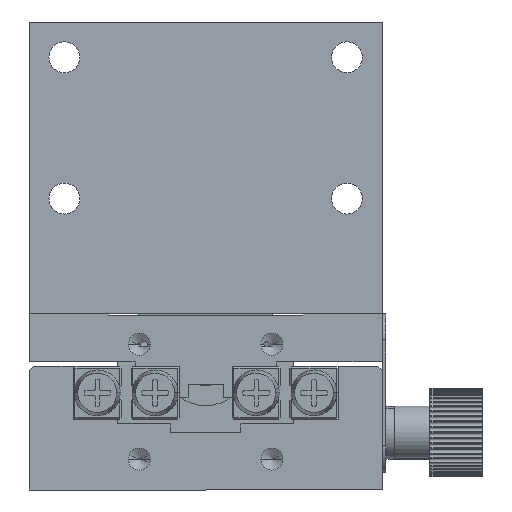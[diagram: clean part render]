
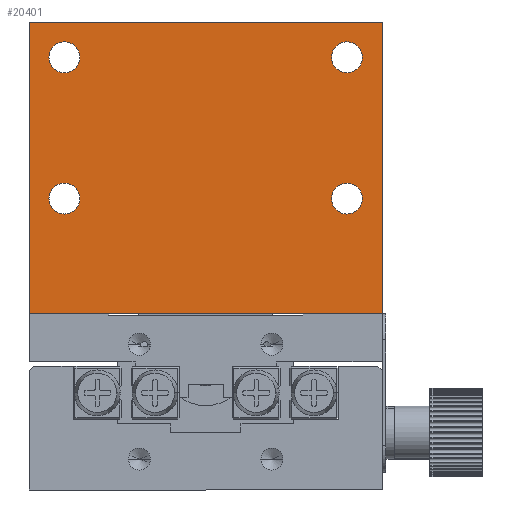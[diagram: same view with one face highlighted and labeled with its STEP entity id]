
A CAD part, front view. The second image highlights one B-rep face of the part: STEP entity #20401.
In plain terms, the highlighted planar face has unit normal (0, -1, 0).
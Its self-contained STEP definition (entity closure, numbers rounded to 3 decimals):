
#201 = DIRECTION ( 'NONE',  ( 0., 1., 0. ) ) ;
#205 = CARTESIAN_POINT ( 'NONE',  ( 16., 0., -20. ) ) ;
#422 = VERTEX_POINT ( 'NONE', #1737 ) ;
#662 = CARTESIAN_POINT ( 'NONE',  ( 16., 0., -18.25 ) ) ;
#756 = VERTEX_POINT ( 'NONE', #4445 ) ;
#881 = DIRECTION ( 'NONE',  ( 0., 0., 1. ) ) ;
#1233 = DIRECTION ( 'NONE',  ( 0., 0., 1. ) ) ;
#1285 = VECTOR ( 'NONE', #4797, 1000. ) ;
#1535 = DIRECTION ( 'NONE',  ( 0., 1., 0. ) ) ;
#1562 = LINE ( 'NONE', #11711, #1285 ) ;
#1737 = CARTESIAN_POINT ( 'NONE',  ( -16., 0., -21.75 ) ) ;
#1947 = ORIENTED_EDGE ( 'NONE', *, *, #22875, .T. ) ;
#2203 = PLANE ( 'NONE',  #13486 ) ;
#2224 = CIRCLE ( 'NONE', #17220, 1.75 ) ;
#2704 = CIRCLE ( 'NONE', #9941, 1.75 ) ;
#2834 = CIRCLE ( 'NONE', #5273, 1.75 ) ;
#2951 = ORIENTED_EDGE ( 'NONE', *, *, #15140, .T. ) ;
#3040 = LINE ( 'NONE', #18829, #9050 ) ;
#3092 = ORIENTED_EDGE ( 'NONE', *, *, #3523, .T. ) ;
#3205 = DIRECTION ( 'NONE',  ( 0., 0., 1. ) ) ;
#3523 = EDGE_CURVE ( 'NONE', #16316, #422, #5688, .T. ) ;
#3653 = FACE_BOUND ( 'NONE', #8945, .T. ) ;
#4075 = CARTESIAN_POINT ( 'NONE',  ( 20., 0., -33. ) ) ;
#4096 = VERTEX_POINT ( 'NONE', #6642 ) ;
#4117 = CIRCLE ( 'NONE', #19381, 1.75 ) ;
#4198 = AXIS2_PLACEMENT_3D ( 'NONE', #22584, #22806, #881 ) ;
#4445 = CARTESIAN_POINT ( 'NONE',  ( -20., 0., -33. ) ) ;
#4797 = DIRECTION ( 'NONE',  ( 0., 0., -1. ) ) ;
#4888 = CARTESIAN_POINT ( 'NONE',  ( 16., 0., -20. ) ) ;
#5062 = FACE_BOUND ( 'NONE', #9828, .T. ) ;
#5109 = DIRECTION ( 'NONE',  ( 0., 0., 1. ) ) ;
#5179 = DIRECTION ( 'NONE',  ( 0., 1., 0. ) ) ;
#5273 = AXIS2_PLACEMENT_3D ( 'NONE', #19863, #14120, #3205 ) ;
#5371 = AXIS2_PLACEMENT_3D ( 'NONE', #21583, #1535, #15943 ) ;
#5688 = CIRCLE ( 'NONE', #4198, 1.75 ) ;
#6558 = EDGE_CURVE ( 'NONE', #422, #16316, #8120, .T. ) ;
#6642 = CARTESIAN_POINT ( 'NONE',  ( 20., 0., -33. ) ) ;
#6796 = DIRECTION ( 'NONE',  ( 0., 1., 0. ) ) ;
#7051 = VECTOR ( 'NONE', #13236, 1000. ) ;
#7141 = DIRECTION ( 'NONE',  ( 0., 1., 0. ) ) ;
#8120 = CIRCLE ( 'NONE', #16920, 1.75 ) ;
#8375 = LINE ( 'NONE', #10034, #10925 ) ;
#8402 = EDGE_CURVE ( 'NONE', #20032, #4096, #1562, .T. ) ;
#8410 = CIRCLE ( 'NONE', #5371, 1.75 ) ;
#8804 = CARTESIAN_POINT ( 'NONE',  ( -16., 0., -4. ) ) ;
#8945 = EDGE_LOOP ( 'NONE', ( #3092, #12542 ) ) ;
#9006 = EDGE_CURVE ( 'NONE', #20032, #19515, #8375, .T. ) ;
#9050 = VECTOR ( 'NONE', #20432, 1000. ) ;
#9197 = DIRECTION ( 'NONE',  ( 0., 0., 1. ) ) ;
#9517 = CARTESIAN_POINT ( 'NONE',  ( 20., 0., 0. ) ) ;
#9828 = EDGE_LOOP ( 'NONE', ( #1947, #20096 ) ) ;
#9941 = AXIS2_PLACEMENT_3D ( 'NONE', #4888, #6796, #19615 ) ;
#10034 = CARTESIAN_POINT ( 'NONE',  ( 20., 0., 0. ) ) ;
#10123 = EDGE_CURVE ( 'NONE', #4096, #756, #19871, .T. ) ;
#10217 = AXIS2_PLACEMENT_3D ( 'NONE', #8804, #201, #9197 ) ;
#10428 = EDGE_LOOP ( 'NONE', ( #2951, #16069 ) ) ;
#10470 = FACE_BOUND ( 'NONE', #13378, .T. ) ;
#10869 = CARTESIAN_POINT ( 'NONE',  ( -16., 0., -5.75 ) ) ;
#10925 = VECTOR ( 'NONE', #22739, 1000. ) ;
#11173 = DIRECTION ( 'NONE',  ( 0., 1., 0. ) ) ;
#11610 = FACE_BOUND ( 'NONE', #10428, .T. ) ;
#11711 = CARTESIAN_POINT ( 'NONE',  ( 20., 0., 0. ) ) ;
#12418 = CARTESIAN_POINT ( 'NONE',  ( 16., 0., -4. ) ) ;
#12542 = ORIENTED_EDGE ( 'NONE', *, *, #6558, .T. ) ;
#12666 = ORIENTED_EDGE ( 'NONE', *, *, #8402, .F. ) ;
#12868 = CARTESIAN_POINT ( 'NONE',  ( -16., 0., -18.25 ) ) ;
#12994 = EDGE_CURVE ( 'NONE', #13774, #15268, #2834, .T. ) ;
#13236 = DIRECTION ( 'NONE',  ( -1., 0., 0. ) ) ;
#13378 = EDGE_LOOP ( 'NONE', ( #15194, #18826 ) ) ;
#13486 = AXIS2_PLACEMENT_3D ( 'NONE', #9517, #11173, #16445 ) ;
#13774 = VERTEX_POINT ( 'NONE', #14737 ) ;
#14120 = DIRECTION ( 'NONE',  ( 0., 1., 0. ) ) ;
#14376 = CARTESIAN_POINT ( 'NONE',  ( -16., 0., -20. ) ) ;
#14678 = ORIENTED_EDGE ( 'NONE', *, *, #10123, .F. ) ;
#14737 = CARTESIAN_POINT ( 'NONE',  ( 16., 0., -5.75 ) ) ;
#15051 = CARTESIAN_POINT ( 'NONE',  ( -16., 0., -2.25 ) ) ;
#15140 = EDGE_CURVE ( 'NONE', #21016, #22217, #2224, .T. ) ;
#15142 = VERTEX_POINT ( 'NONE', #10869 ) ;
#15194 = ORIENTED_EDGE ( 'NONE', *, *, #17038, .T. ) ;
#15247 = EDGE_CURVE ( 'NONE', #19515, #756, #3040, .T. ) ;
#15268 = VERTEX_POINT ( 'NONE', #18670 ) ;
#15943 = DIRECTION ( 'NONE',  ( 0., 0., 1. ) ) ;
#16069 = ORIENTED_EDGE ( 'NONE', *, *, #22495, .T. ) ;
#16213 = EDGE_CURVE ( 'NONE', #15142, #21590, #21514, .T. ) ;
#16316 = VERTEX_POINT ( 'NONE', #12868 ) ;
#16445 = DIRECTION ( 'NONE',  ( 0., 0., 1. ) ) ;
#16920 = AXIS2_PLACEMENT_3D ( 'NONE', #14376, #7141, #1233 ) ;
#17038 = EDGE_CURVE ( 'NONE', #15268, #13774, #4117, .T. ) ;
#17220 = AXIS2_PLACEMENT_3D ( 'NONE', #205, #23591, #18339 ) ;
#17592 = FACE_OUTER_BOUND ( 'NONE', #20928, .T. ) ;
#18339 = DIRECTION ( 'NONE',  ( 0., 0., 1. ) ) ;
#18670 = CARTESIAN_POINT ( 'NONE',  ( 16., 0., -2.25 ) ) ;
#18826 = ORIENTED_EDGE ( 'NONE', *, *, #12994, .T. ) ;
#18829 = CARTESIAN_POINT ( 'NONE',  ( -20., 0., 0. ) ) ;
#18969 = CARTESIAN_POINT ( 'NONE',  ( 20., 0., 0. ) ) ;
#19006 = CARTESIAN_POINT ( 'NONE',  ( -20., 0., 0. ) ) ;
#19381 = AXIS2_PLACEMENT_3D ( 'NONE', #12418, #5179, #5109 ) ;
#19515 = VERTEX_POINT ( 'NONE', #19006 ) ;
#19615 = DIRECTION ( 'NONE',  ( 0., 0., 1. ) ) ;
#19863 = CARTESIAN_POINT ( 'NONE',  ( 16., 0., -4. ) ) ;
#19871 = LINE ( 'NONE', #4075, #7051 ) ;
#20032 = VERTEX_POINT ( 'NONE', #18969 ) ;
#20067 = ORIENTED_EDGE ( 'NONE', *, *, #9006, .T. ) ;
#20096 = ORIENTED_EDGE ( 'NONE', *, *, #16213, .T. ) ;
#20354 = CARTESIAN_POINT ( 'NONE',  ( 16., 0., -21.75 ) ) ;
#20401 = ADVANCED_FACE ( 'NONE', ( #3653, #5062, #10470, #11610, #17592 ), #2203, .F. ) ;
#20432 = DIRECTION ( 'NONE',  ( 0., 0., -1. ) ) ;
#20928 = EDGE_LOOP ( 'NONE', ( #23262, #14678, #12666, #20067 ) ) ;
#21016 = VERTEX_POINT ( 'NONE', #662 ) ;
#21514 = CIRCLE ( 'NONE', #10217, 1.75 ) ;
#21583 = CARTESIAN_POINT ( 'NONE',  ( -16., 0., -4. ) ) ;
#21590 = VERTEX_POINT ( 'NONE', #15051 ) ;
#22217 = VERTEX_POINT ( 'NONE', #20354 ) ;
#22495 = EDGE_CURVE ( 'NONE', #22217, #21016, #2704, .T. ) ;
#22584 = CARTESIAN_POINT ( 'NONE',  ( -16., 0., -20. ) ) ;
#22739 = DIRECTION ( 'NONE',  ( -1., 0., 0. ) ) ;
#22806 = DIRECTION ( 'NONE',  ( 0., 1., 0. ) ) ;
#22875 = EDGE_CURVE ( 'NONE', #21590, #15142, #8410, .T. ) ;
#23262 = ORIENTED_EDGE ( 'NONE', *, *, #15247, .T. ) ;
#23591 = DIRECTION ( 'NONE',  ( 0., 1., 0. ) ) ;
